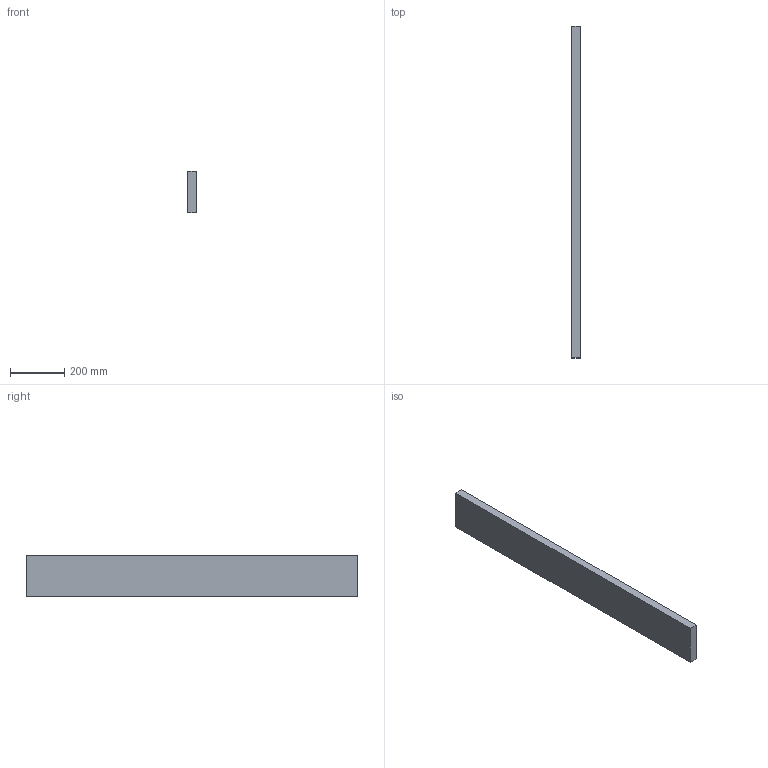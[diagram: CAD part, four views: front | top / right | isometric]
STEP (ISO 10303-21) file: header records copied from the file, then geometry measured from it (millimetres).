
FILE_DESCRIPTION(/* description */ (''),/* implementation_level */ '2;1');
FILE_NAME(/* name */ 'SM_Baffle1.2x6x48',/* time_stamp */ '2024-10-15T11:56:34-05:00',/* author */ (''),/* organization */ (''),/* preprocessor_version */ 'ST-DEVELOPER v19.2',/* originating_system */ 'Rhino 8.4',/* authorisation */ '');
FILE_SCHEMA (('CONFIG_CONTROL_DESIGN'));
Length unit declared in the file: inch
Products named in the file (1): Document
Bounding box: 30.48 x 1219.2 x 152.4 mm (x, y, z)
Volume: 5663369.3 mm3; surface area: 455224.9 mm2
Topology: 1 solids, 1 shells, 6 faces, 12 edges, 8 vertices
Faces by surface type: plane 6
Entity records: 226 total; most frequent: CARTESIAN_POINT 40, ORIENTED_EDGE 24, EDGE_CURVE 12, B_SPLINE_CURVE_WITH_KNOTS 12, DIRECTION 10, VERTEX_POINT 8, AXIS2_PLACEMENT_3D 8, ORGANIZATION 7
